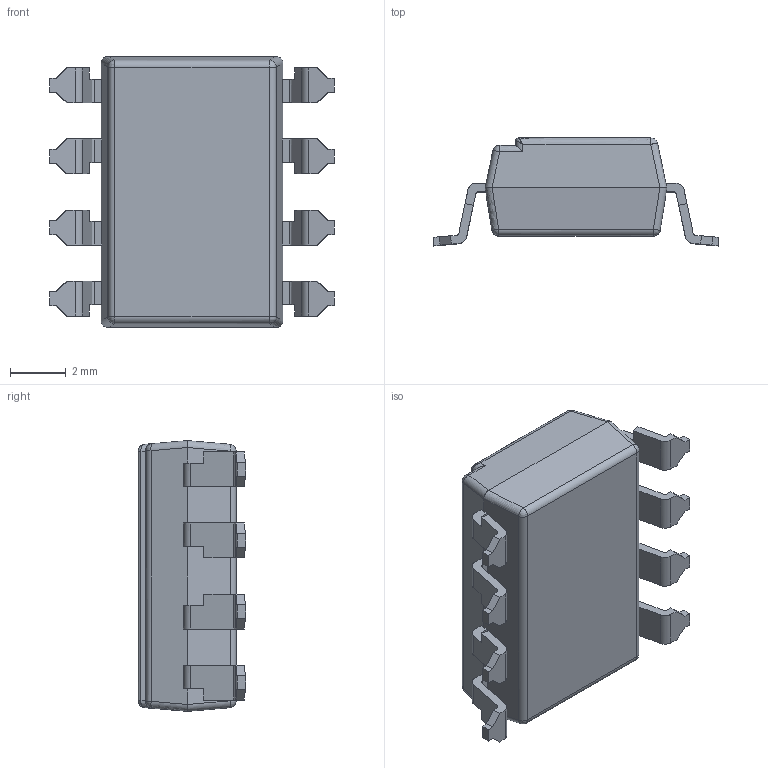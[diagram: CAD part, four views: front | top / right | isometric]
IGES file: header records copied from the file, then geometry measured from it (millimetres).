
Global section: file name: 8P-S; native system: Autodesk Inventor 2016; preprocessor: unknown; author: ElvinLai; date: 20181011.144730; units: millimetre
Bounding box: 10.16 x 3.85 x 9.68 mm (x, y, z)
Surface area: 284.6 mm2 (no closed solid volume)
Topology: 0 solids, 0 shells, 197 faces, 1160 edges, 1158 vertices
Faces by surface type: bspline 136, revolution 61
